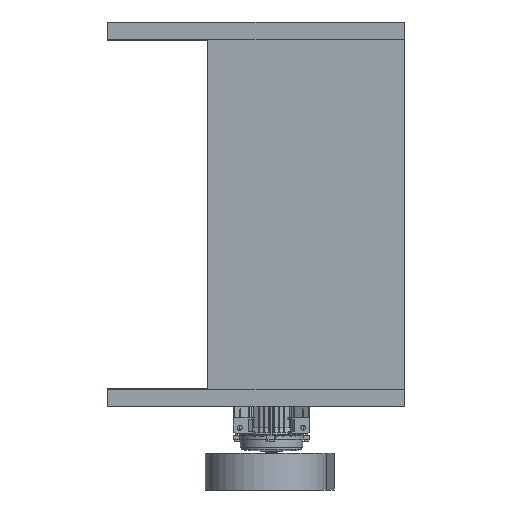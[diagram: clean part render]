
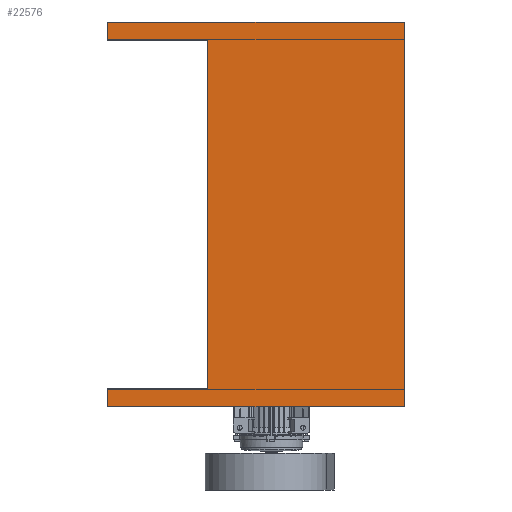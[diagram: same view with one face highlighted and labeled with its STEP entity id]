
A CAD part, front view. The second image highlights one B-rep face of the part: STEP entity #22576.
In plain terms, the highlighted planar face has unit normal (0, -1, 0).
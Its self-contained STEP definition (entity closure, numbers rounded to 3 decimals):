
#263 = VECTOR ( 'NONE', #14004, 1000. ) ;
#728 = DIRECTION ( 'NONE',  ( 1., 0., 0. ) ) ;
#1516 = VECTOR ( 'NONE', #35402, 1000. ) ;
#2173 = VECTOR ( 'NONE', #21897, 1000. ) ;
#2630 = CARTESIAN_POINT ( 'NONE',  ( -122.515, -176.895, 440. ) ) ;
#3264 = CARTESIAN_POINT ( 'NONE',  ( -375.515, -176.895, 440. ) ) ;
#4575 = CARTESIAN_POINT ( 'NONE',  ( 374.485, -176.895, -486. ) ) ;
#5040 = ORIENTED_EDGE ( 'NONE', *, *, #26604, .T. ) ;
#5329 = DIRECTION ( 'NONE',  ( -1., 0., 0. ) ) ;
#5885 = CARTESIAN_POINT ( 'NONE',  ( -122.515, -176.895, 440. ) ) ;
#6398 = LINE ( 'NONE', #21220, #22313 ) ;
#6535 = DIRECTION ( 'NONE',  ( -1., 0., 0. ) ) ;
#7872 = LINE ( 'NONE', #10773, #263 ) ;
#8549 = EDGE_CURVE ( 'NONE', #39631, #37711, #15338, .T. ) ;
#9457 = VERTEX_POINT ( 'NONE', #40353 ) ;
#9744 = VECTOR ( 'NONE', #728, 1000. ) ;
#10337 = CARTESIAN_POINT ( 'NONE',  ( -375.515, -176.895, -440. ) ) ;
#10423 = CARTESIAN_POINT ( 'NONE',  ( -375.515, -176.895, 440. ) ) ;
#10460 = EDGE_CURVE ( 'NONE', #10919, #39631, #33742, .T. ) ;
#10634 = DIRECTION ( 'NONE',  ( 0., 0., 1. ) ) ;
#10773 = CARTESIAN_POINT ( 'NONE',  ( -375.515, -176.895, -486. ) ) ;
#10919 = VERTEX_POINT ( 'NONE', #25012 ) ;
#11110 = LINE ( 'NONE', #32298, #1516 ) ;
#12790 = VECTOR ( 'NONE', #31734, 1000. ) ;
#13468 = VERTEX_POINT ( 'NONE', #17648 ) ;
#13517 = ORIENTED_EDGE ( 'NONE', *, *, #40666, .F. ) ;
#14004 = DIRECTION ( 'NONE',  ( -1., 0., 0. ) ) ;
#14184 = ORIENTED_EDGE ( 'NONE', *, *, #38634, .F. ) ;
#15338 = LINE ( 'NONE', #3264, #16337 ) ;
#16337 = VECTOR ( 'NONE', #6535, 1000. ) ;
#17503 = VERTEX_POINT ( 'NONE', #4575 ) ;
#17648 = CARTESIAN_POINT ( 'NONE',  ( -375.515, -176.895, -440. ) ) ;
#20104 = PLANE ( 'NONE',  #31553 ) ;
#20828 = FACE_OUTER_BOUND ( 'NONE', #32209, .T. ) ;
#21219 = LINE ( 'NONE', #28691, #12790 ) ;
#21220 = CARTESIAN_POINT ( 'NONE',  ( -375.515, -176.895, 486. ) ) ;
#21897 = DIRECTION ( 'NONE',  ( 0., 0., 1. ) ) ;
#22089 = EDGE_CURVE ( 'NONE', #9457, #23270, #6398, .T. ) ;
#22313 = VECTOR ( 'NONE', #5329, 1000. ) ;
#22576 = ADVANCED_FACE ( 'NONE', ( #20828 ), #20104, .F. ) ;
#22758 = ORIENTED_EDGE ( 'NONE', *, *, #22089, .T. ) ;
#23270 = VERTEX_POINT ( 'NONE', #32896 ) ;
#25012 = CARTESIAN_POINT ( 'NONE',  ( -122.515, -176.895, -440. ) ) ;
#25535 = EDGE_CURVE ( 'NONE', #13468, #29127, #21219, .T. ) ;
#26026 = ORIENTED_EDGE ( 'NONE', *, *, #8549, .F. ) ;
#26604 = EDGE_CURVE ( 'NONE', #23270, #37711, #31363, .T. ) ;
#27665 = CARTESIAN_POINT ( 'NONE',  ( -375.515, -176.895, -486. ) ) ;
#28691 = CARTESIAN_POINT ( 'NONE',  ( -375.515, -176.895, 443. ) ) ;
#29127 = VERTEX_POINT ( 'NONE', #27665 ) ;
#29273 = ORIENTED_EDGE ( 'NONE', *, *, #30367, .F. ) ;
#29433 = DIRECTION ( 'NONE',  ( 0., 1., 0. ) ) ;
#30367 = EDGE_CURVE ( 'NONE', #9457, #17503, #11110, .T. ) ;
#30746 = ORIENTED_EDGE ( 'NONE', *, *, #25535, .T. ) ;
#31363 = LINE ( 'NONE', #34232, #38607 ) ;
#31553 = AXIS2_PLACEMENT_3D ( 'NONE', #35487, #29433, #10634 ) ;
#31734 = DIRECTION ( 'NONE',  ( 0., 0., -1. ) ) ;
#32209 = EDGE_LOOP ( 'NONE', ( #5040, #26026, #40096, #13517, #30746, #14184, #29273, #22758 ) ) ;
#32298 = CARTESIAN_POINT ( 'NONE',  ( 374.485, -176.895, 443. ) ) ;
#32896 = CARTESIAN_POINT ( 'NONE',  ( -375.515, -176.895, 486. ) ) ;
#33721 = LINE ( 'NONE', #10337, #9744 ) ;
#33742 = LINE ( 'NONE', #5885, #2173 ) ;
#34232 = CARTESIAN_POINT ( 'NONE',  ( -375.515, -176.895, 443. ) ) ;
#35402 = DIRECTION ( 'NONE',  ( 0., 0., -1. ) ) ;
#35487 = CARTESIAN_POINT ( 'NONE',  ( 0., -176.895, 443. ) ) ;
#37321 = DIRECTION ( 'NONE',  ( 0., 0., -1. ) ) ;
#37711 = VERTEX_POINT ( 'NONE', #10423 ) ;
#38607 = VECTOR ( 'NONE', #37321, 1000. ) ;
#38634 = EDGE_CURVE ( 'NONE', #17503, #29127, #7872, .T. ) ;
#39631 = VERTEX_POINT ( 'NONE', #2630 ) ;
#40096 = ORIENTED_EDGE ( 'NONE', *, *, #10460, .F. ) ;
#40353 = CARTESIAN_POINT ( 'NONE',  ( 374.485, -176.895, 486. ) ) ;
#40666 = EDGE_CURVE ( 'NONE', #13468, #10919, #33721, .T. ) ;
